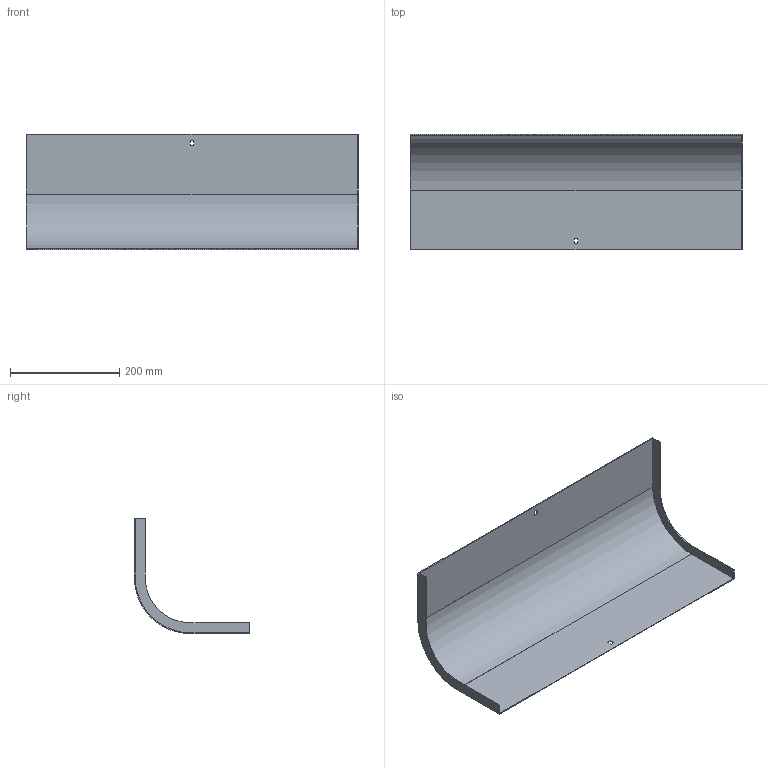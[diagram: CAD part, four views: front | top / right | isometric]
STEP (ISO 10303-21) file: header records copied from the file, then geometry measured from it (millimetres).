
FILE_DESCRIPTION (( 'STEP AP214' ), '1' );
FILE_NAME ('33G1C600.step', '2025-02-21T12:45:05', ( '' ), ( '' ), 'SwSTEP 2.0', 'SolidWorks 2023', '' );
FILE_SCHEMA (( 'AUTOMOTIVE_DESIGN' ));
Length unit declared in the file: millimetre
Products named in the file (1): 33G1C600
Bounding box: 607 x 210.5 x 210.5 mm (x, y, z)
Volume: 362417.7 mm3; surface area: 486290.2 mm2
Topology: 1 solids, 1 shells, 26 faces, 72 edges, 48 vertices
Faces by surface type: plane 22, cylinder 4
Entity records: 855 total; most frequent: CARTESIAN_POINT 147, ORIENTED_EDGE 144, DIRECTION 134, EDGE_CURVE 72, LINE 64, VECTOR 64, VERTEX_POINT 48, AXIS2_PLACEMENT_3D 35
